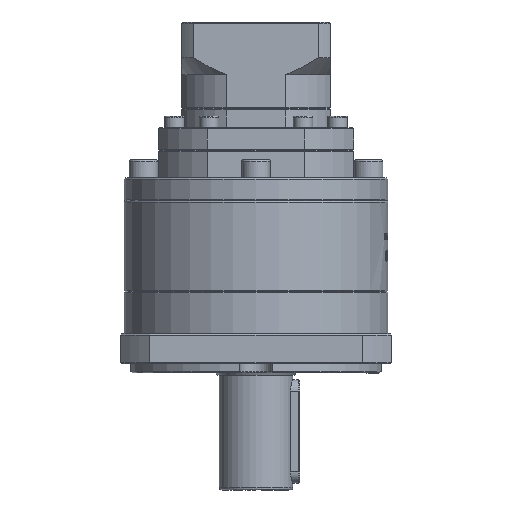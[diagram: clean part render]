
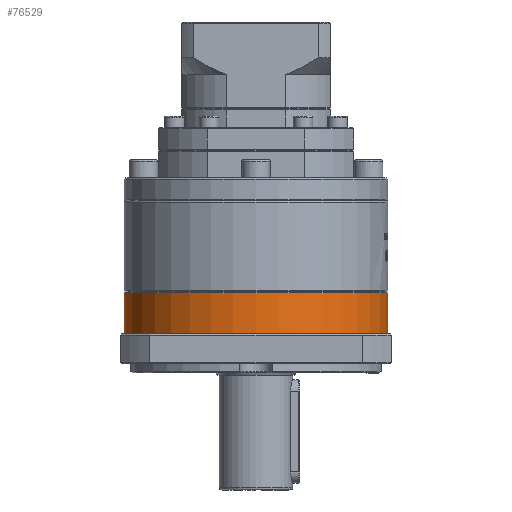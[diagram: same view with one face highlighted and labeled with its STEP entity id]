
A CAD part, front view. The second image highlights one B-rep face of the part: STEP entity #76529.
In plain terms, the highlighted cylindrical face has radius 57.5 mm (diameter 115 mm), a partial arc.
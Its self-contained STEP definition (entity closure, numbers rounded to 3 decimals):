
#16001 = AXIS2_PLACEMENT_3D ( 'NONE', #21314, #83790, #30273 ) ;
#21314 = CARTESIAN_POINT ( 'NONE',  ( 18.574, 0.878, -52.197 ) ) ;
#21574 = EDGE_CURVE ( 'NONE', #82464, #78081, #42741, .T. ) ;
#22895 = DIRECTION ( 'NONE',  ( 1., 0., 0. ) ) ;
#27612 = DIRECTION ( 'NONE',  ( 0., 0., 1. ) ) ;
#30273 = DIRECTION ( 'NONE',  ( 1., 0., 0. ) ) ;
#30587 = VECTOR ( 'NONE', #49712, 1000. ) ;
#31386 = EDGE_CURVE ( 'NONE', #82225, #78081, #33378, .T. ) ;
#31496 = CARTESIAN_POINT ( 'NONE',  ( 18.574, 0.878, -52.197 ) ) ;
#33378 = LINE ( 'NONE', #40756, #30587 ) ;
#36682 = CIRCLE ( 'NONE', #16001, 57.5 ) ;
#39202 = VECTOR ( 'NONE', #115939, 1000. ) ;
#40756 = CARTESIAN_POINT ( 'NONE',  ( 76.074, 0.878, -52.197 ) ) ;
#41420 = ORIENTED_EDGE ( 'NONE', *, *, #90072, .F. ) ;
#42741 = CIRCLE ( 'NONE', #96079, 57.5 ) ;
#45451 = CARTESIAN_POINT ( 'NONE',  ( 76.074, 0.878, -52.197 ) ) ;
#49712 = DIRECTION ( 'NONE',  ( 0., 0., 1. ) ) ;
#50501 = CARTESIAN_POINT ( 'NONE',  ( -38.926, 0.878, -34.197 ) ) ;
#57370 = CARTESIAN_POINT ( 'NONE',  ( 76.074, 0.878, -34.197 ) ) ;
#58941 = EDGE_CURVE ( 'NONE', #106298, #82225, #36682, .T. ) ;
#60646 = FACE_OUTER_BOUND ( 'NONE', #92329, .T. ) ;
#64789 = AXIS2_PLACEMENT_3D ( 'NONE', #31496, #76005, #22895 ) ;
#69441 = ORIENTED_EDGE ( 'NONE', *, *, #31386, .T. ) ;
#71727 = ORIENTED_EDGE ( 'NONE', *, *, #58941, .T. ) ;
#76005 = DIRECTION ( 'NONE',  ( 0., 0., 1. ) ) ;
#76529 = ADVANCED_FACE ( 'NONE', ( #60646 ), #96869, .T. ) ;
#78081 = VERTEX_POINT ( 'NONE', #57370 ) ;
#79898 = CARTESIAN_POINT ( 'NONE',  ( -38.926, 0.878, -52.197 ) ) ;
#81153 = CARTESIAN_POINT ( 'NONE',  ( 18.574, 0.878, -34.197 ) ) ;
#82225 = VERTEX_POINT ( 'NONE', #45451 ) ;
#82464 = VERTEX_POINT ( 'NONE', #50501 ) ;
#83790 = DIRECTION ( 'NONE',  ( 0., 0., 1. ) ) ;
#86630 = LINE ( 'NONE', #79898, #39202 ) ;
#86800 = ORIENTED_EDGE ( 'NONE', *, *, #21574, .F. ) ;
#90072 = EDGE_CURVE ( 'NONE', #106298, #82464, #86630, .T. ) ;
#90086 = DIRECTION ( 'NONE',  ( -1., 0., 0. ) ) ;
#92329 = EDGE_LOOP ( 'NONE', ( #41420, #71727, #69441, #86800 ) ) ;
#96079 = AXIS2_PLACEMENT_3D ( 'NONE', #81153, #27612, #90086 ) ;
#96869 = CYLINDRICAL_SURFACE ( 'NONE', #64789, 57.5 ) ;
#106298 = VERTEX_POINT ( 'NONE', #112520 ) ;
#112520 = CARTESIAN_POINT ( 'NONE',  ( -38.926, 0.878, -52.197 ) ) ;
#115939 = DIRECTION ( 'NONE',  ( 0., 0., 1. ) ) ;
